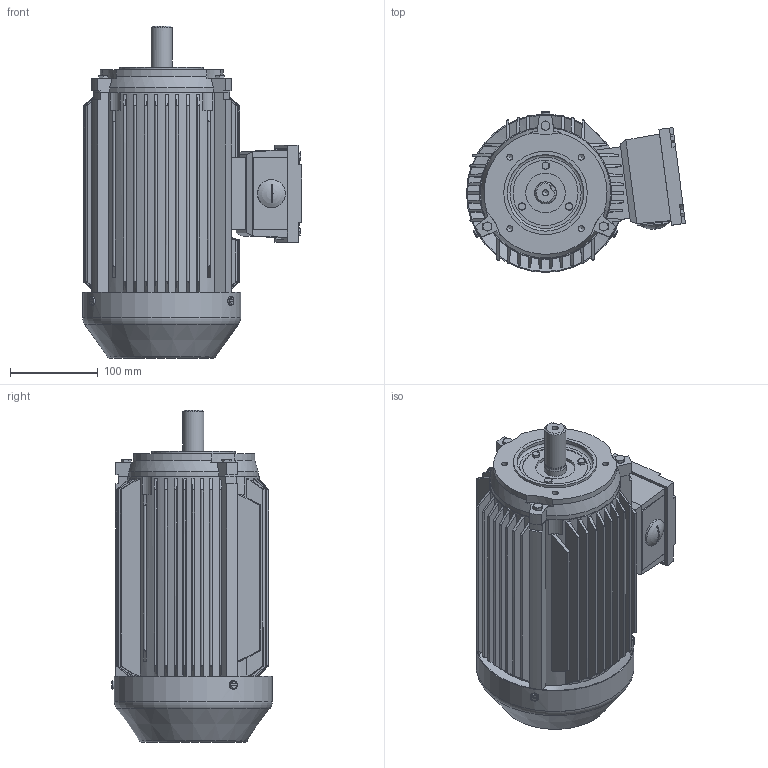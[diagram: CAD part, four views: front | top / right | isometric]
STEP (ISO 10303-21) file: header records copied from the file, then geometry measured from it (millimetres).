
FILE_DESCRIPTION(/* description */ (''),/* implementation_level */ '2;1');
FILE_NAME(/* name */ 'C:/Users/luigi_zhang/Desktop/temp/New folder/TE3-90L B14 ╔╧ .step',/* time_stamp */ '2020-06-22T09:00:36+10:00',/* author */ (''),/* organization */ (''),/* preprocessor_version */ 'ST-DEVELOPER v18.1',/* originating_system */ 'Autodesk Translation Framework v9.3.0.1241',/* authorisation */ '');
FILE_SCHEMA (('AUTOMOTIVE_DESIGN { 1 0 10303 214 3 1 1 }'));
Products named in the file (9): (Unsaved); YE3-90L B5 P24»ú×ù; GX90 B1434 P24 Í¹Ôµ¶Ë¸Ç; YE3-90 P24ÖáÉì; hexagon head bolts--product grade c gb_GB_FASTENER_BOLT_HHBC M6X45-C; hexagon head bolts--product grade c gb_GB_FASTENER_BOLT_HHBC M5X25-N; TE3-90~100½ÓÏßºÐ; TE3-80~100 P24 ½ÓÏßºÐ×ù; TE3-80~100 ½ÓÏßºÐ¸Ç
Assembly tree (12 placements, depth 3):
  (Unsaved)
    YE3-90L B5 P24»ú×ù
    GX90 B1434 P24 Í¹Ôµ¶Ë¸Ç
    YE3-90 P24ÖáÉì
    hexagon head bolts--product grade c gb_GB_FASTENER_BOLT_HHBC M6X45-C  x3
    hexagon head bolts--product grade c gb_GB_FASTENER_BOLT_HHBC M5X25-N  x3
    TE3-90~100½ÓÏßºÐ
      TE3-80~100 P24 ½ÓÏßºÐ×ù
      TE3-80~100 ½ÓÏßºÐ¸Ç
Bounding box: 249.37 x 183 x 377.99 mm (x, y, z)
Volume: 6340314.7 mm3; surface area: 623114.7 mm2
Topology: 12 solids, 12 shells, 1374 faces, 3524 edges, 2315 vertices
Faces by surface type: plane 750, cylinder 472, cone 80, bspline 60, torus 11, sphere 1
Full cylindrical faces by diameter (mm): 4.795 x4, 5 x3, 5.265 x4, 5.8 x7, 6 x3, 6.499 x1, 6.8 x5, 7 x3, 8 x1, 9.333 x4, 9.5 x6, 23.5 x1, 24 x1, 25 x2, 30 x1, 32 x1, 42.083 x1, 45 x1, 52 x1, 74 x1, 95 x1, 140 x1, 178 x1, 180 x1
Entity records: 117992 total; most frequent: CARTESIAN_POINT 85792, ORIENTED_EDGE 6732, DIRECTION 6546, EDGE_CURVE 3366, AXIS2_PLACEMENT_3D 2278, VERTEX_POINT 2223, LINE 1990, VECTOR 1990
